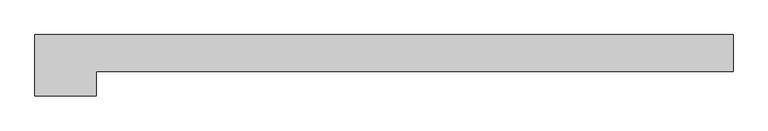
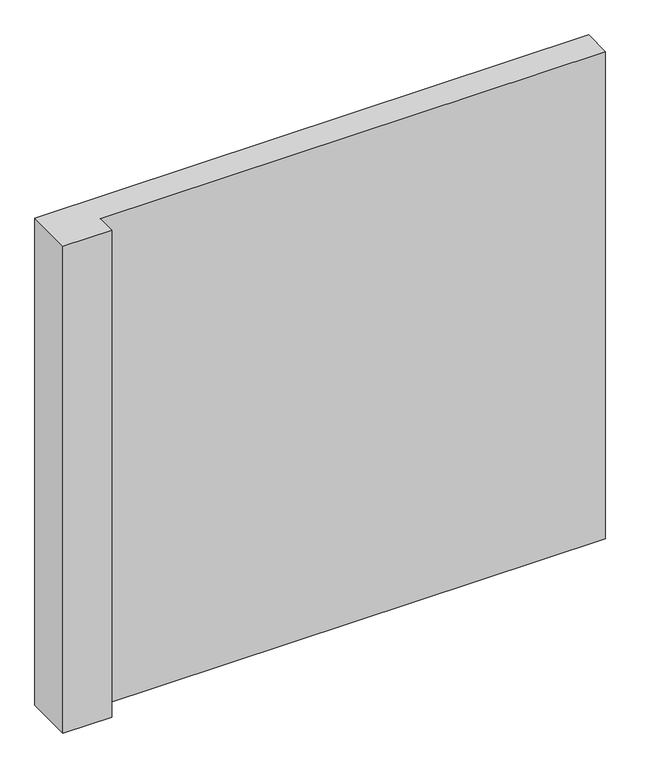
"""IFC4 building model written with IfcOpenShell, lengths in millimetres: column geometry, Columna Estructural Ele : ECO_Ele 25x285x25."""

from ifc_helpers import new_model, si_unit, frame, origin, place, context, project, spatial, polyline, outline, extrude, source, transform, mapped, element, save


def column_6116fde4(model_context):
    return source(origin(), model_context, "Body", "SweptSolid", [
        extrude(outline(polyline([(125.0, -175.0), (-125.0, -175.0), (-125.0, 75.0), (2725.0, 75.0), (2725.0, -75.0), (125.0, -75.0), (125.0, -175.0)])), frame((0.0, 0.0, 10700.0), z_axis=(0.0, 0.0, 1.0), x_axis=(1.0, 0.0, 0.0)), (0.0, 0.0, 1.0), 2650.0),
    ])


if __name__ == "__main__":
    model = new_model("IFC4")
    model_context = context("Model", 3, world=origin())
    ifc_project = project(units=[si_unit("LENGTHUNIT", "METRE", prefix="MILLI")], contexts=[model_context])
    site = spatial("IfcSite", under=ifc_project)
    building = spatial("IfcBuilding", under=site)
    placement = place(None, origin())
    column_shape = column_6116fde4(model_context)
    element("IfcColumn", 1, ObjectType="Columna Estructural Ele : ECO_Ele 25x285x25", at=placement, inside=building, context=model_context, shape_type="MappedRepresentation", body=[
        mapped(column_shape, transform((0.0, 0.0, 0.0), x_axis=(1.0, 0.0, 0.0), y_axis=(0.0, 1.0, 0.0), z_axis=(0.0, 0.0, 1.0))),
    ])
    save(model, "model.ifc")
